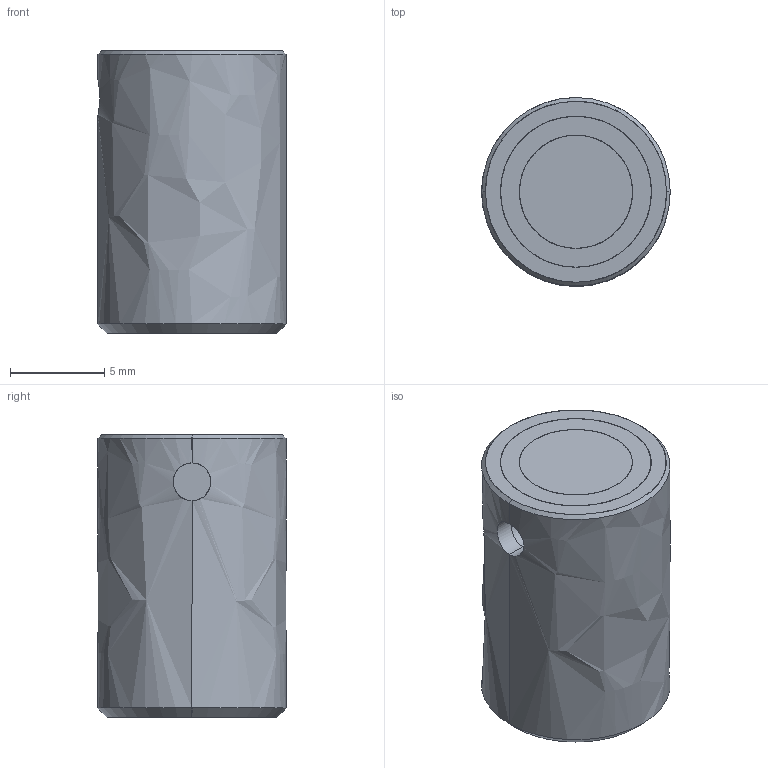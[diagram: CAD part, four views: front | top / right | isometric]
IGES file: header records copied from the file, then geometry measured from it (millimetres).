
Global section: file name: E:\UnigraphicsGraphicData\MISUMI_PRESS-PARTS\IGES\3d_mg10_00552_r00.igs; native system: NX V5.0; preprocessor: UGS NX IGES V5.0; author: MISUMI; date: 20110105.161400; units: millimetre
Bounding box: 10 x 10 x 15 mm (x, y, z)
Surface area: 1326.8 mm2 (no closed solid volume)
Topology: 0 solids, 0 shells, 35 faces, 304 edges, 304 vertices
Faces by surface type: bspline 35
